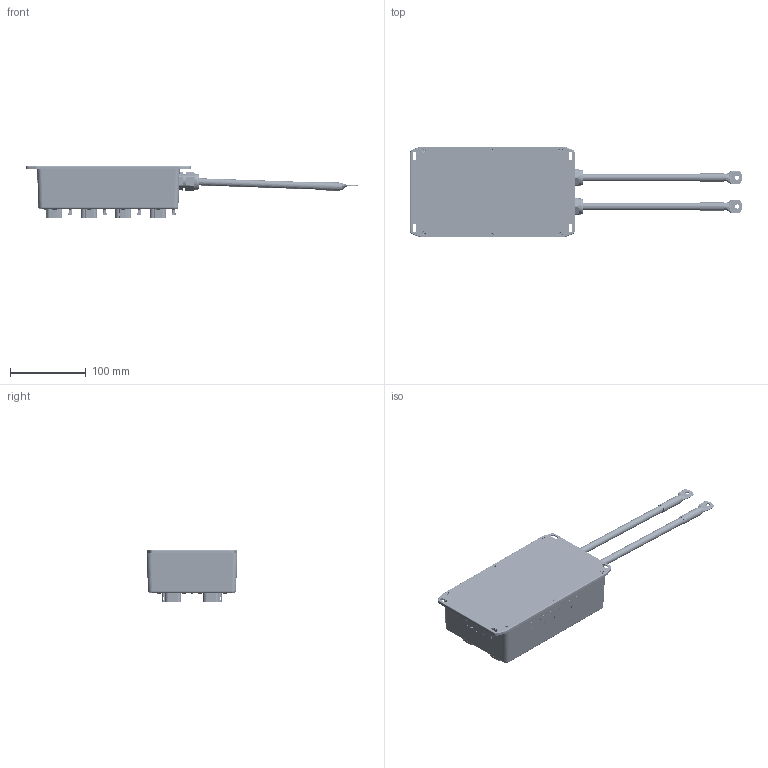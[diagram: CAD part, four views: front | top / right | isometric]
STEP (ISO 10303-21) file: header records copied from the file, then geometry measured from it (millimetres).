
FILE_DESCRIPTION (( 'STEP AP203' ), '1' );
FILE_NAME ('CAN DISTRIBUTION BOX 8X6.STEP', '2014-07-10T15:47:34', ( 'JDL' ), ( '' ), 'SwSTEP 2.0', 'SolidWorks 2007', '' );
FILE_SCHEMA (( 'CONFIG_CONTROL_DESIGN' ));
Products named in the file (20): WIRE 6GA BLACK; SCREW CAP PHI PLASTITE 4 X .375; FUSE HOLDER ; CONNECTOR; SHRINKWRAP; CAN DISTRIBUTION BOX 8X6; 1590D BOX; 1590D,DD,E FLANGE LID; DEUTSCH RECEPT DT15-6P; 6-32 screw; CARD 8X6 PLUG; SCREW PAN PHI PLASTITE #6 x .500; FUSE TYPE ATO 15A; LED GREEN 5MM; HEYCO PG-11; WIRE 6GA RED; GROUND BAR; LBL INT TERM; LBL 621 TECH; LABEL TOP 8X6
Assembly tree (104 placements, depth 2):
  CAN DISTRIBUTION BOX 8X6
    SCREW PAN PHI PLASTITE #6 x .500  x16
    LED GREEN 5MM  x9
    SCREW CAP PHI PLASTITE 4 X .375  x32
    FUSE HOLDER   x8
    FUSE TYPE ATO 15A  x8
    1590D BOX
    6-32 screw  x6
    DEUTSCH RECEPT DT15-6P  x8
    HEYCO PG-11  x2
    WIRE 6GA BLACK
    SHRINKWRAP  x2
    GROUND BAR  x2
    LBL 621 TECH  x2
    LABEL TOP 8X6
    CONNECTOR  x2
    LBL INT TERM
    CARD 8X6 PLUG
    1590D,DD,E FLANGE LID
    WIRE 6GA RED
Bounding box: 437.19 x 119.5 x 68.33 mm (x, y, z)
Volume: 440225.3 mm3; surface area: 370628.2 mm2
Topology: 98 solids, 104 shells, 9545 faces, 24648 edges, 15949 vertices
Faces by surface type: plane 5001, cylinder 2308, bspline 1732, cone 310, torus 176, sphere 18
Entity records: 167586 total; most frequent: CARTESIAN_POINT 71886, ORIENTED_EDGE 20248, DIRECTION 16097, EDGE_CURVE 10125, VERTEX_POINT 6676, VECTOR 6289, LINE 6289, AXIS2_PLACEMENT_3D 4904
